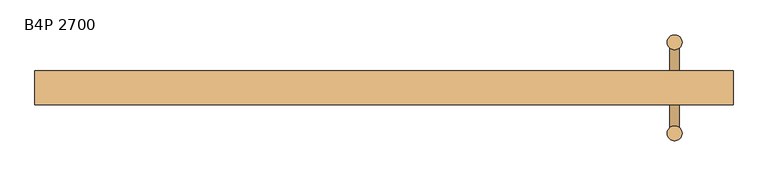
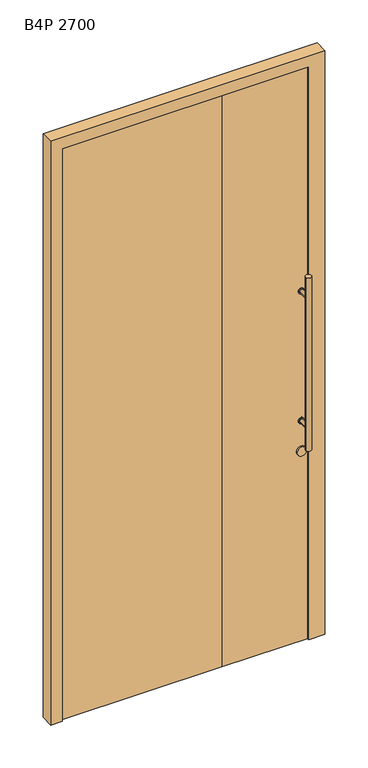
"""IFC4 building model written with IfcOpenShell, lengths in millimetres: door geometry, Mobiliário_Mobiliário de Escritório_Porta de Giro Pivotante - BP_Marelli : B4P 2700."""

from ifc_helpers import new_model, si_unit, point, frame, frame_2d, origin, place, context, project, spatial, polyline, circle_curve, trimmed, segment, composite_curve, outline, extrude, faceted_brep, source, transform, mapped, element, save


def b4p_2700_b218b246(model_context):
    return source(origin(), model_context, "Body", "SolidModel", [
        extrude(outline(polyline([(-547.5, -8.0), (-547.5, 34.0), (190.5, 34.0), (547.5, 34.0), (547.5, -8.0), (152.5, -8.0), (-547.5, -8.0)])), frame((0.0, 0.0, 0.2), z_axis=(0.0, 0.0, 1.0), x_axis=(1.0, 0.0, 0.0)), (0.0, 0.0, 1.0), 2648.3),
        faceted_brep([(-600.0, 42.5, 0.0), (-529.0, 42.5, 0.0), (-529.0, 34.0, 0.0), (-550.0, 34.0, 0.0), (-550.0, -16.5, 0.0), (-600.0, -16.5, 0.0), (600.0, -16.5, 0.0), (529.0, -16.5, 0.0), (529.0, -8.0, 0.0), (550.0, -8.0, 0.0), (550.0, 42.5, 0.0), (600.0, 42.5, 0.0), (-600.0, -16.5, 2700.0), (-600.0, 42.5, 2700.0), (-550.0, -16.5, 2650.0), (529.0, -16.5, 2650.0), (600.0, -16.5, 2700.0), (-550.0, 34.0, 2629.0), (-550.0, 27.0, 2629.0), (-550.0, 27.0, 2650.0), (-529.0, 34.0, 2629.0), (-529.0, 42.5, 2629.0), (600.0, 42.5, 2700.0), (550.0, 42.5, 2629.0), (550.0, -8.0, 2650.0), (550.0, 27.0, 2650.0), (550.0, 27.0, 2629.0), (529.0, -8.0, 2650.0)], [[[0, 1, 2, 3, 4, 5]], [[6, 7, 8, 9, 10, 11]], [[0, 5, 12, 13]], [[12, 5, 4, 14, 15, 7, 6, 16]], [[3, 17, 18, 19, 14, 4]], [[2, 20, 17, 3]], [[1, 21, 20, 2]], [[22, 11, 10, 23, 21, 1, 0, 13]], [[6, 11, 22, 16]], [[9, 24, 25, 26, 23, 10]], [[8, 27, 24, 9]], [[7, 15, 27, 8]], [[22, 13, 12, 16]], [[23, 26, 18, 17, 20, 21]], [[14, 19, 25, 24, 27, 15]], [[26, 25, 19, 18]]]),
        extrude(outline(composite_curve([segment(trimmed(circle_curve(frame_2d((880.75, 499.5)), 20.75), [point((880.75, 478.75))], [point((880.75, 520.25))], False, "CARTESIAN"), True, "CONTINUOUS"), segment(trimmed(circle_curve(frame_2d((880.75, 499.5)), 20.75), [point((880.75, 520.25))], [point((880.75, 478.75))], False, "CARTESIAN"), True, "CONTINUOUS")], self_intersect=False)), frame((0.0, -16.0, 0.0), z_axis=(0.0, 1.0, 0.0), x_axis=(0.0, 0.0, 1.0)), (0.0, 0.0, 1.0), 8.0),
        extrude(outline(composite_curve([segment(trimmed(circle_curve(frame_2d((880.75, 499.5)), 20.75), [point((880.75, 478.75))], [point((880.75, 520.25))], False, "CARTESIAN"), True, "CONTINUOUS"), segment(trimmed(circle_curve(frame_2d((880.75, 499.5)), 20.75), [point((880.75, 520.25))], [point((880.75, 478.75))], False, "CARTESIAN"), True, "CONTINUOUS")], self_intersect=False)), frame((0.0, 34.0, 0.0), z_axis=(0.0, 1.0, 0.0), x_axis=(0.0, 0.0, 1.0)), (0.0, 0.0, 1.0), 8.0),
        extrude(outline(composite_curve([segment(trimmed(circle_curve(frame_2d((499.5, 91.2)), 12.7), [point((486.8, 91.2))], [point((512.2, 91.2))], False, "CARTESIAN"), True, "CONTINUOUS"), segment(trimmed(circle_curve(frame_2d((499.5, 91.2)), 12.7), [point((512.2, 91.2))], [point((486.8, 91.2))], False, "CARTESIAN"), True, "CONTINUOUS")], self_intersect=False)), frame((0.0, 0.0, 920.0), z_axis=(0.0, 0.0, 1.0), x_axis=(1.0, 0.0, 0.0)), (0.0, 0.0, 1.0), 800.0),
        extrude(outline(composite_curve([segment(trimmed(circle_curve(frame_2d((499.5, -65.2)), 12.7), [point((486.8, -65.2))], [point((512.2, -65.2))], False, "CARTESIAN"), True, "CONTINUOUS"), segment(trimmed(circle_curve(frame_2d((499.5, -65.2)), 12.7), [point((512.2, -65.2))], [point((486.8, -65.2))], False, "CARTESIAN"), True, "CONTINUOUS")], self_intersect=False)), frame((0.0, 0.0, 920.0), z_axis=(0.0, 0.0, 1.0), x_axis=(1.0, 0.0, 0.0)), (0.0, 0.0, 1.0), 800.0),
        extrude(outline(composite_curve([segment(trimmed(circle_curve(frame_2d((1020.0, 499.5)), 12.7), [point((1020.0, 486.8))], [point((1020.0, 512.2))], False, "CARTESIAN"), True, "CONTINUOUS"), segment(trimmed(circle_curve(frame_2d((1020.0, 499.5)), 12.7), [point((1020.0, 512.2))], [point((1020.0, 486.8))], False, "CARTESIAN"), True, "CONTINUOUS")], self_intersect=False)), frame((0.0, -12.0, 0.0), z_axis=(0.0, 1.0, 0.0), x_axis=(0.0, 0.0, 1.0)), (0.0, 0.0, 1.0), 50.0),
        extrude(outline(composite_curve([segment(trimmed(circle_curve(frame_2d((1620.0, 499.5)), 12.7), [point((1620.0, 486.8))], [point((1620.0, 512.2))], False, "CARTESIAN"), True, "CONTINUOUS"), segment(trimmed(circle_curve(frame_2d((1620.0, 499.5)), 12.7), [point((1620.0, 512.2))], [point((1620.0, 486.8))], False, "CARTESIAN"), True, "CONTINUOUS")], self_intersect=False)), frame((0.0, -12.0, 0.0), z_axis=(0.0, 1.0, 0.0), x_axis=(0.0, 0.0, 1.0)), (0.0, 0.0, 1.0), 50.0),
        extrude(outline(composite_curve([segment(trimmed(circle_curve(frame_2d((1020.0, 499.5)), 8.0), [point((1020.0, 491.5))], [point((1020.0, 507.5))], False, "CARTESIAN"), True, "CONTINUOUS"), segment(trimmed(circle_curve(frame_2d((1020.0, 499.5)), 8.0), [point((1020.0, 507.5))], [point((1020.0, 491.5))], False, "CARTESIAN"), True, "CONTINUOUS")], self_intersect=False)), frame((0.0, -62.9261526, 0.0), z_axis=(0.0, 1.0, 0.0), x_axis=(0.0, 0.0, 1.0)), (0.0, 0.0, 1.0), 151.9261526),
        extrude(outline(composite_curve([segment(trimmed(circle_curve(frame_2d((1620.0, 499.5)), 8.0), [point((1620.0, 491.5))], [point((1620.0, 507.5))], False, "CARTESIAN"), True, "CONTINUOUS"), segment(trimmed(circle_curve(frame_2d((1620.0, 499.5)), 8.0), [point((1620.0, 507.5))], [point((1620.0, 491.5))], False, "CARTESIAN"), True, "CONTINUOUS")], self_intersect=False)), frame((0.0, -62.9261526, 0.0), z_axis=(0.0, 1.0, 0.0), x_axis=(0.0, 0.0, 1.0)), (0.0, 0.0, 1.0), 151.9261526),
    ])


if __name__ == "__main__":
    model = new_model("IFC4")
    model_context = context("Model", 3, world=origin())
    ifc_project = project(units=[si_unit("LENGTHUNIT", "METRE", prefix="MILLI")], contexts=[model_context])
    site = spatial("IfcSite", under=ifc_project)
    building = spatial("IfcBuilding", under=site)
    placement = place(None, origin())
    b4p_2700_shape = b4p_2700_b218b246(model_context)
    element("IfcDoor", 1, ObjectType="Mobiliário_Mobiliário de Escritório_Porta de Giro Pivotante - BP_Marelli : B4P 2700", at=placement, inside=building, context=model_context, shape_type="MappedRepresentation", body=[
        mapped(b4p_2700_shape, transform((0.0, 0.0, 0.0), x_axis=(1.0, 0.0, 0.0), y_axis=(0.0, 1.0, 0.0), z_axis=(0.0, 0.0, 1.0))),
    ])
    save(model, "model.ifc")
